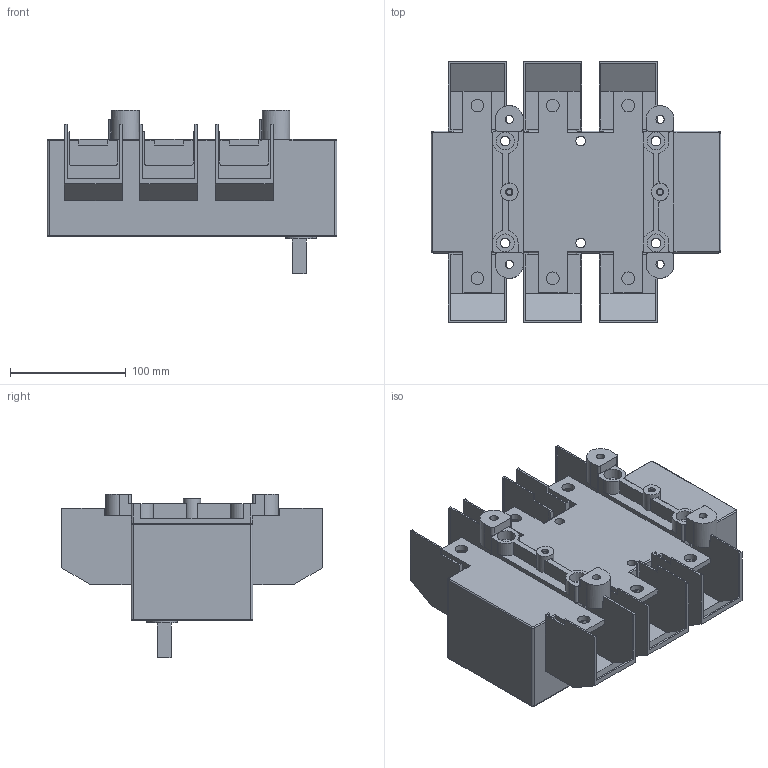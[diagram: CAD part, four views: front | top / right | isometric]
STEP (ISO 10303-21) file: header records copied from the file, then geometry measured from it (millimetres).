
FILE_DESCRIPTION(/* description */ (''),/* implementation_level */ '2;1');
FILE_NAME(/* name */ 'RA630 P3 z oslona zaciskow.stp',/* time_stamp */ '2021-08-19T07:36:50+02:00',/* author */ (''),/* organization */ (''),/* preprocessor_version */ 'ST-DEVELOPER v18.1',/* originating_system */ 'SIEMENS PLM Software NX 1965',/* authorisation */ '');
FILE_SCHEMA (('AUTOMOTIVE_DESIGN { 1 0 10303 214 3 1 1 1 }'));
Length unit declared in the file: millimetre
Products named in the file (1): RA630 P3 z oslona zaciskow_stp
Bounding box: 250 x 225 x 141 mm (x, y, z)
Volume: 2394203.7 mm3; surface area: 289354.5 mm2
Topology: 1 solids, 1 shells, 362 faces, 1054 edges, 692 vertices
Faces by surface type: plane 256, cylinder 98, torus 5, bspline 3
Full cylindrical faces by diameter (mm): 4.8 x2, 6.2 x2, 7 x4, 8.2 x6, 11 x6, 14 x4, 15 x2, 15.5 x4
Entity records: 11779 total; most frequent: CARTESIAN_POINT 2118, ORIENTED_EDGE 2020, DIRECTION 1958, EDGE_CURVE 1010, LINE 778, VECTOR 778, VERTEX_POINT 678, AXIS2_PLACEMENT_3D 590
